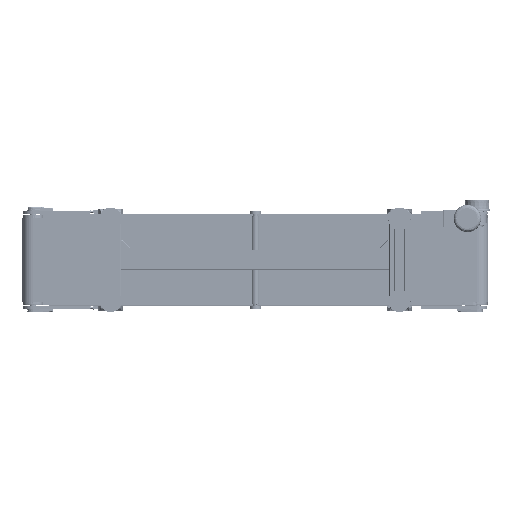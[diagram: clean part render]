
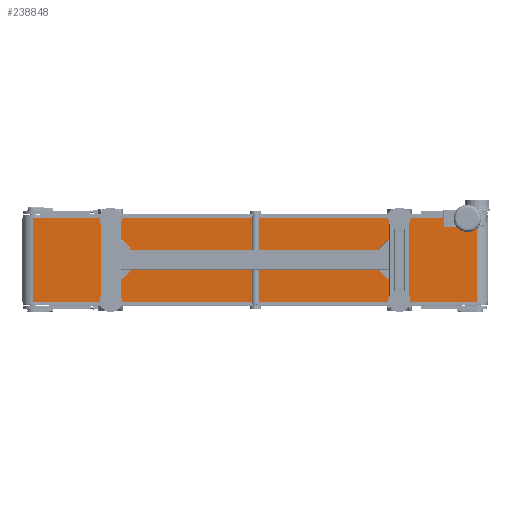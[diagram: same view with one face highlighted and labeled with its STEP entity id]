
A CAD part, front view. The second image highlights one B-rep face of the part: STEP entity #238848.
In plain terms, the highlighted planar face has unit normal (0, -1, 0).
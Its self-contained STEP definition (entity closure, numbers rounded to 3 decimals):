
#946 = EDGE_CURVE ( 'NONE', #181282, #85270, #9722, .T. ) ;
#3085 = VERTEX_POINT ( 'NONE', #14164 ) ;
#5884 = LINE ( 'NONE', #258610, #209546 ) ;
#6459 = EDGE_CURVE ( 'NONE', #3085, #181282, #218221, .T. ) ;
#9722 = LINE ( 'NONE', #237105, #102111 ) ;
#9811 = DIRECTION ( 'NONE',  ( 1., 0., 0. ) ) ;
#14164 = CARTESIAN_POINT ( 'NONE',  ( -1000., -49.5, 190. ) ) ;
#27532 = AXIS2_PLACEMENT_3D ( 'NONE', #99489, #199706, #179396 ) ;
#34554 = FACE_OUTER_BOUND ( 'NONE', #87077, .T. ) ;
#35899 = ORIENTED_EDGE ( 'NONE', *, *, #6459, .F. ) ;
#51554 = CARTESIAN_POINT ( 'NONE',  ( 1000., -49.5, 190. ) ) ;
#60080 = ORIENTED_EDGE ( 'NONE', *, *, #189577, .T. ) ;
#85270 = VERTEX_POINT ( 'NONE', #250701 ) ;
#87077 = EDGE_LOOP ( 'NONE', ( #60080, #97205, #35899, #180867 ) ) ;
#95019 = CARTESIAN_POINT ( 'NONE',  ( -1000., -49.5, -190. ) ) ;
#97205 = ORIENTED_EDGE ( 'NONE', *, *, #946, .F. ) ;
#99489 = CARTESIAN_POINT ( 'NONE',  ( -1000., -49.5, 190. ) ) ;
#99957 = DIRECTION ( 'NONE',  ( 0., 0., -1. ) ) ;
#102111 = VECTOR ( 'NONE', #99957, 1000. ) ;
#109682 = DIRECTION ( 'NONE',  ( 0., 0., -1. ) ) ;
#117129 = PLANE ( 'NONE',  #27532 ) ;
#173592 = CARTESIAN_POINT ( 'NONE',  ( -1000., -49.5, 190. ) ) ;
#179396 = DIRECTION ( 'NONE',  ( 0., 0., 1. ) ) ;
#180867 = ORIENTED_EDGE ( 'NONE', *, *, #185999, .T. ) ;
#181282 = VERTEX_POINT ( 'NONE', #51554 ) ;
#183103 = VECTOR ( 'NONE', #109682, 1000. ) ;
#185999 = EDGE_CURVE ( 'NONE', #3085, #265289, #257164, .T. ) ;
#189577 = EDGE_CURVE ( 'NONE', #265289, #85270, #5884, .T. ) ;
#197666 = DIRECTION ( 'NONE',  ( 1., 0., 0. ) ) ;
#199706 = DIRECTION ( 'NONE',  ( 0., 1., 0. ) ) ;
#207468 = VECTOR ( 'NONE', #9811, 1000. ) ;
#209546 = VECTOR ( 'NONE', #197666, 1000. ) ;
#218221 = LINE ( 'NONE', #173592, #207468 ) ;
#237105 = CARTESIAN_POINT ( 'NONE',  ( 1000., -49.5, 190. ) ) ;
#238848 = ADVANCED_FACE ( 'NONE', ( #34554 ), #117129, .F. ) ;
#250701 = CARTESIAN_POINT ( 'NONE',  ( 1000., -49.5, -190. ) ) ;
#253155 = CARTESIAN_POINT ( 'NONE',  ( -1000., -49.5, 190. ) ) ;
#257164 = LINE ( 'NONE', #253155, #183103 ) ;
#258610 = CARTESIAN_POINT ( 'NONE',  ( -1000., -49.5, -190. ) ) ;
#265289 = VERTEX_POINT ( 'NONE', #95019 ) ;
